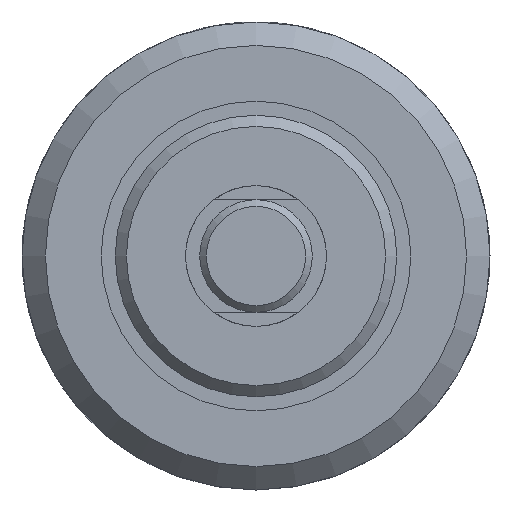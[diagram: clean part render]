
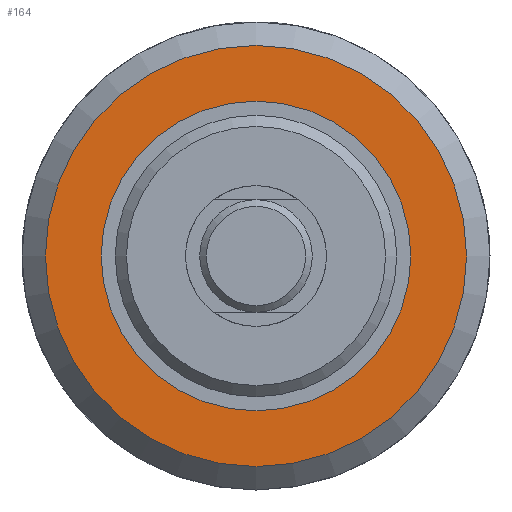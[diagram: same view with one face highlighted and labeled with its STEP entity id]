
A CAD part, left-side view. The second image highlights one B-rep face of the part: STEP entity #164.
In plain terms, the highlighted planar face has unit normal (-1, 0, 0).
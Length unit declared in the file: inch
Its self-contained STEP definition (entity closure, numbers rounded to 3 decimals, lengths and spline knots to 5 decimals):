
#164 = ADVANCED_FACE( '', ( #343, #344 ), #345, .F. );
#343 = FACE_OUTER_BOUND( '', #537, .T. );
#344 = FACE_BOUND( '', #538, .T. );
#345 = PLANE( '', #539 );
#537 = EDGE_LOOP( '', ( #793 ) );
#538 = EDGE_LOOP( '', ( #794 ) );
#539 = AXIS2_PLACEMENT_3D( '', #795, #796, #797 );
#793 = ORIENTED_EDGE( '', *, *, #1025, .F. );
#794 = ORIENTED_EDGE( '', *, *, #982, .T. );
#795 = CARTESIAN_POINT( '', ( 0.813, 0.6875, 0. ) );
#796 = DIRECTION( '', ( 1., 0., 0. ) );
#797 = DIRECTION( '', ( 0., 0., -1. ) );
#982 = EDGE_CURVE( '', #1119, #1119, #1120, .T. );
#1025 = EDGE_CURVE( '', #1188, #1188, #1189, .T. );
#1119 = VERTEX_POINT( '', #1296 );
#1120 = CIRCLE( '', #1297, 0.6875 );
#1188 = VERTEX_POINT( '', #1463 );
#1189 = CIRCLE( '', #1464, 0.9351 );
#1296 = CARTESIAN_POINT( '', ( 0.813, 0., -0.6875 ) );
#1297 = AXIS2_PLACEMENT_3D( '', #1572, #1573, #1574 );
#1463 = CARTESIAN_POINT( '', ( 0.813, 0., -0.9351 ) );
#1464 = AXIS2_PLACEMENT_3D( '', #1639, #1640, #1641 );
#1572 = CARTESIAN_POINT( '', ( 0.813, 0., 0. ) );
#1573 = DIRECTION( '', ( 1., 0., 0. ) );
#1574 = DIRECTION( '', ( 0., 0., -1. ) );
#1639 = CARTESIAN_POINT( '', ( 0.813, 0., 0. ) );
#1640 = DIRECTION( '', ( 1., 0., 0. ) );
#1641 = DIRECTION( '', ( 0., 0., -1. ) );
